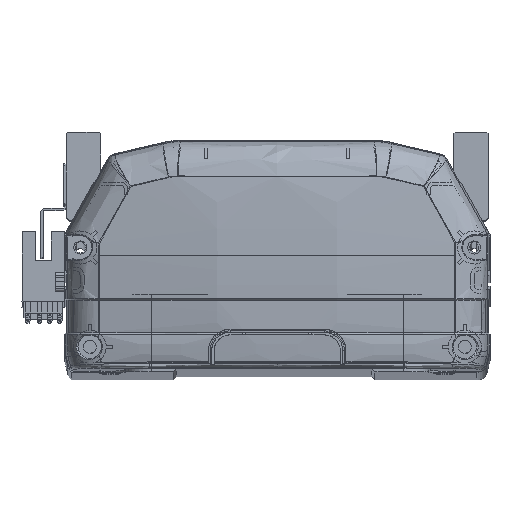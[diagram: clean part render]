
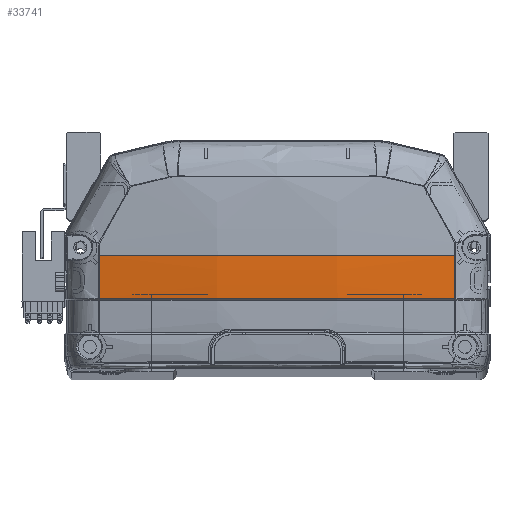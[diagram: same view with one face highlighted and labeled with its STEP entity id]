
A CAD part, top view. The second image highlights one B-rep face of the part: STEP entity #33741.
In plain terms, the highlighted free-form (B-spline) face has degree [3, 3] with [4, 4] control points.
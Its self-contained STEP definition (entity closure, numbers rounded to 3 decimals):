
#745 = CARTESIAN_POINT ( 'NONE',  ( 2.357, 22.225, -9.562 ) ) ;
#2038 = CARTESIAN_POINT ( 'NONE',  ( -56.647, 31.405, -5.158 ) ) ;
#2861 = EDGE_CURVE ( 'NONE', #42850, #12492, #19147, .T. ) ;
#3078 = CARTESIAN_POINT ( 'NONE',  ( -19.295, 36., -11.535 ) ) ;
#3239 = CARTESIAN_POINT ( 'NONE',  ( 57.335, 26.762, -4.928 ) ) ;
#3514 = CARTESIAN_POINT ( 'NONE',  ( 19.295, 26.549, -11.419 ) ) ;
#4494 = CARTESIAN_POINT ( 'NONE',  ( 47.432, 22.225, -6.377 ) ) ;
#4651 = CARTESIAN_POINT ( 'NONE',  ( 8.363, 22.225, -9.48 ) ) ;
#4868 = ORIENTED_EDGE ( 'NONE', *, *, #28494, .F. ) ;
#5625 = CARTESIAN_POINT ( 'NONE',  ( -56.647, 36., -5.158 ) ) ;
#6917 = CARTESIAN_POINT ( 'NONE',  ( 0., 36., 330.833 ) ) ;
#7137 = CARTESIAN_POINT ( 'NONE',  ( -19.295, 26.549, -11.419 ) ) ;
#7482 = FACE_OUTER_BOUND ( 'NONE', #39856, .T. ) ;
#8746 = CARTESIAN_POINT ( 'NONE',  ( -38.235, 22.225, -7.93 ) ) ;
#9717 = CARTESIAN_POINT ( 'NONE',  ( -56.661, 22.225, -4.818 ) ) ;
#10508 = VERTEX_POINT ( 'NONE', #41639 ) ;
#10599 = CARTESIAN_POINT ( 'NONE',  ( -57.335, 36., -5.042 ) ) ;
#10694 =( BOUNDED_SURFACE ( )  B_SPLINE_SURFACE ( 3, 3, ( 
 ( #43887, #3239, #18111, #47674 ),
 ( #29076, #3514, #40269, #36979 ),
 ( #32838, #7137, #33006, #3078 ),
 ( #17979, #40595, #33284, #10599 ) ),
 .UNSPECIFIED., .F., .F., .F. ) 
 B_SPLINE_SURFACE_WITH_KNOTS ( ( 4, 4 ),
 ( 4, 4 ),
 ( 0., 1. ),
 ( 0., 1. ),
 .UNSPECIFIED. ) 
 GEOMETRIC_REPRESENTATION_ITEM ( )  RATIONAL_B_SPLINE_SURFACE ( (
 ( 1., 1., 1., 1.),
 ( 0.99, 0.99, 0.99, 0.99),
 ( 0.99, 0.99, 0.99, 0.99),
 ( 1., 1., 1., 1.) ) ) 
 REPRESENTATION_ITEM ( '' )  SURFACE ( )  );
#10860 = CARTESIAN_POINT ( 'NONE',  ( 6452.613, 35.969, -5.158 ) ) ;
#12492 = VERTEX_POINT ( 'NONE', #43158 ) ;
#12501 = CARTESIAN_POINT ( 'NONE',  ( 56.661, 22.225, -4.818 ) ) ;
#12702 = CARTESIAN_POINT ( 'NONE',  ( -19.28, 22.225, -9.565 ) ) ;
#13174 = CARTESIAN_POINT ( 'NONE',  ( -56.652, 26.814, -5.045 ) ) ;
#15020 = EDGE_CURVE ( 'NONE', #42850, #10508, #23003, .T. ) ;
#16542 = AXIS2_PLACEMENT_3D ( 'NONE', #6917, #40362, #21154 ) ;
#17979 = CARTESIAN_POINT ( 'NONE',  ( -57.335, 22.148, -4.7 ) ) ;
#18111 = CARTESIAN_POINT ( 'NONE',  ( 57.335, 31.38, -5.042 ) ) ;
#18377 = DIRECTION ( 'NONE',  ( 0., 0., -1. ) ) ;
#19147 = B_SPLINE_CURVE_WITH_KNOTS ( 'NONE', 3,
 ( #34708, #4494, #38761, #27515, #45464, #30821, #4651, #41863, #745, #35018, #12702, #8746, #27351 ),
 .UNSPECIFIED., .F., .F.,
 ( 4, 2, 2, 1, 2, 2, 4 ),
 ( 0., 0.25, 0.375, 0.438, 0.469, 0.5, 1. ),
 .UNSPECIFIED. ) ;
#19475 = B_SPLINE_CURVE_WITH_KNOTS ( 'NONE', 3,
 ( #5625, #2038, #13174, #9717 ),
 .UNSPECIFIED., .F., .F.,
 ( 4, 4 ),
 ( 0., 1. ),
 .UNSPECIFIED. ) ;
#20326 = CARTESIAN_POINT ( 'NONE',  ( 56.652, 26.806, -5.044 ) ) ;
#21154 = DIRECTION ( 'NONE',  ( 0., 0., -1. ) ) ;
#23003 = B_SPLINE_CURVE_WITH_KNOTS ( 'NONE', 3,
 ( #12501, #20326, #27836, #38546 ),
 .UNSPECIFIED., .F., .F.,
 ( 4, 4 ),
 ( 0., 1. ),
 .UNSPECIFIED. ) ;
#23563 = VERTEX_POINT ( 'NONE', #25087 ) ;
#24885 = EDGE_CURVE ( 'NONE', #10508, #37210, #30075, .T. ) ;
#25087 = CARTESIAN_POINT ( 'NONE',  ( -56.647, 36., -5.158 ) ) ;
#26944 = ORIENTED_EDGE ( 'NONE', *, *, #2861, .T. ) ;
#27351 = CARTESIAN_POINT ( 'NONE',  ( -56.661, 22.225, -4.818 ) ) ;
#27515 = CARTESIAN_POINT ( 'NONE',  ( 23.877, 22.225, -8.763 ) ) ;
#27836 = CARTESIAN_POINT ( 'NONE',  ( 56.647, 31.387, -5.158 ) ) ;
#28494 = EDGE_CURVE ( 'NONE', #23563, #12492, #19475, .T. ) ;
#29076 = CARTESIAN_POINT ( 'NONE',  ( 19.295, 21.828, -11.186 ) ) ;
#29772 = AXIS2_PLACEMENT_3D ( 'NONE', #10860, #18377, #44444 ) ;
#30075 = CIRCLE ( 'NONE', #29772, 6395.966 ) ;
#30246 = EDGE_CURVE ( 'NONE', #37210, #23563, #38489, .T. ) ;
#30821 = CARTESIAN_POINT ( 'NONE',  ( 11.954, 22.225, -9.367 ) ) ;
#32838 = CARTESIAN_POINT ( 'NONE',  ( -19.295, 21.828, -11.186 ) ) ;
#33006 = CARTESIAN_POINT ( 'NONE',  ( -19.295, 31.274, -11.535 ) ) ;
#33284 = CARTESIAN_POINT ( 'NONE',  ( -57.335, 31.38, -5.042 ) ) ;
#33741 = ADVANCED_FACE ( 'NONE', ( #7482 ), #10694, .T. ) ;
#34708 = CARTESIAN_POINT ( 'NONE',  ( 56.661, 22.225, -4.818 ) ) ;
#35018 = CARTESIAN_POINT ( 'NONE',  ( 1.152, 22.225, -9.568 ) ) ;
#36979 = CARTESIAN_POINT ( 'NONE',  ( 19.295, 36., -11.535 ) ) ;
#37210 = VERTEX_POINT ( 'NONE', #45425 ) ;
#37687 = ORIENTED_EDGE ( 'NONE', *, *, #24885, .F. ) ;
#38489 = CIRCLE ( 'NONE', #16542, 340.733 ) ;
#38546 = CARTESIAN_POINT ( 'NONE',  ( 56.647, 35.969, -5.158 ) ) ;
#38761 = CARTESIAN_POINT ( 'NONE',  ( 38.071, 22.225, -7.566 ) ) ;
#39281 = ORIENTED_EDGE ( 'NONE', *, *, #15020, .F. ) ;
#39856 = EDGE_LOOP ( 'NONE', ( #41126, #37687, #39281, #26944, #4868 ) ) ;
#40269 = CARTESIAN_POINT ( 'NONE',  ( 19.295, 31.274, -11.535 ) ) ;
#40362 = DIRECTION ( 'NONE',  ( 0., 1., 0. ) ) ;
#40595 = CARTESIAN_POINT ( 'NONE',  ( -57.335, 26.762, -4.928 ) ) ;
#41126 = ORIENTED_EDGE ( 'NONE', *, *, #30246, .F. ) ;
#41639 = CARTESIAN_POINT ( 'NONE',  ( 56.647, 35.969, -5.158 ) ) ;
#41863 = CARTESIAN_POINT ( 'NONE',  ( 4.761, 22.225, -9.537 ) ) ;
#42850 = VERTEX_POINT ( 'NONE', #48263 ) ;
#43158 = CARTESIAN_POINT ( 'NONE',  ( -56.661, 22.225, -4.818 ) ) ;
#43887 = CARTESIAN_POINT ( 'NONE',  ( 57.335, 22.148, -4.7 ) ) ;
#44444 = DIRECTION ( 'NONE',  ( -1., 0., 0. ) ) ;
#45425 = CARTESIAN_POINT ( 'NONE',  ( 56.647, 36., -5.158 ) ) ;
#45464 = CARTESIAN_POINT ( 'NONE',  ( 19.121, 22.225, -9.064 ) ) ;
#47674 = CARTESIAN_POINT ( 'NONE',  ( 57.335, 36., -5.042 ) ) ;
#48263 = CARTESIAN_POINT ( 'NONE',  ( 56.661, 22.225, -4.818 ) ) ;
